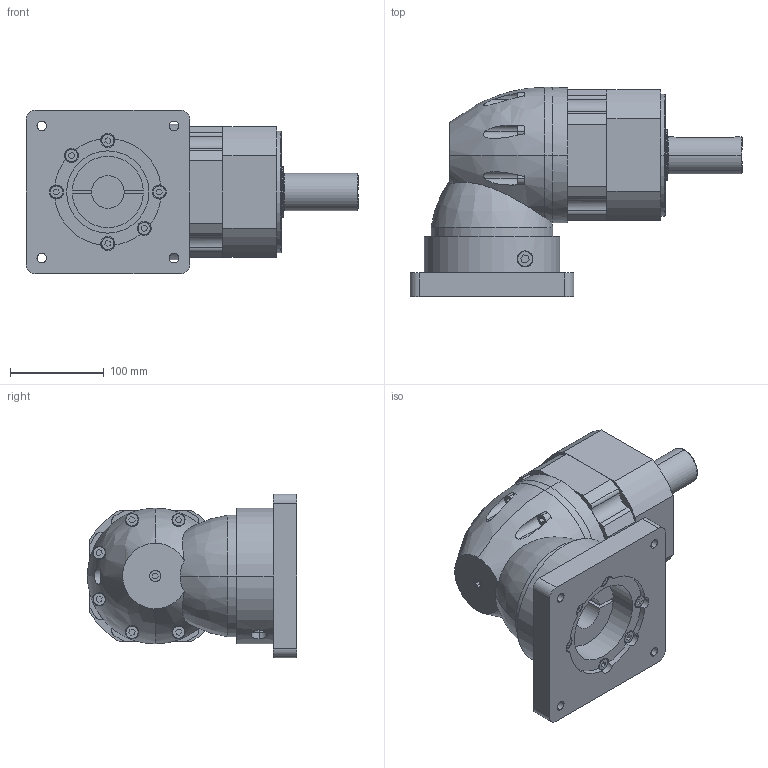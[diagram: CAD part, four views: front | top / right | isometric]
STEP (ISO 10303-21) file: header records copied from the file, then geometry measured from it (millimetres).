
FILE_DESCRIPTION (( 'STEP AP214' ), '1' );
FILE_NAME ('PER-160-L1-S2-P2 35-79 114.3-200-M12.STEP', '2023-09-09T00:49:07', ( '微软用户' ), ( '微软中国' ), 'SwSTEP 2.0', 'SolidWorks 2018', '' );
FILE_SCHEMA (( 'AUTOMOTIVE_DESIGN' ));
Length unit declared in the file: millimetre
Products named in the file (1): PER-160-L1-S2-P2 35-79 114.3-200-M12
Bounding box: 355 x 223.5 x 175 mm (x, y, z)
Volume: 5012145.9 mm3; surface area: 316329 mm2
Topology: 2 solids, 2 shells, 400 faces, 975 edges, 621 vertices
Faces by surface type: plane 206, cylinder 161, cone 20, bspline 13
Entity records: 15965 total; most frequent: CARTESIAN_POINT 6856, ORIENTED_EDGE 1914, DIRECTION 1762, EDGE_CURVE 957, VERTEX_POINT 621, AXIS2_PLACEMENT_3D 615, VECTOR 532, LINE 532
